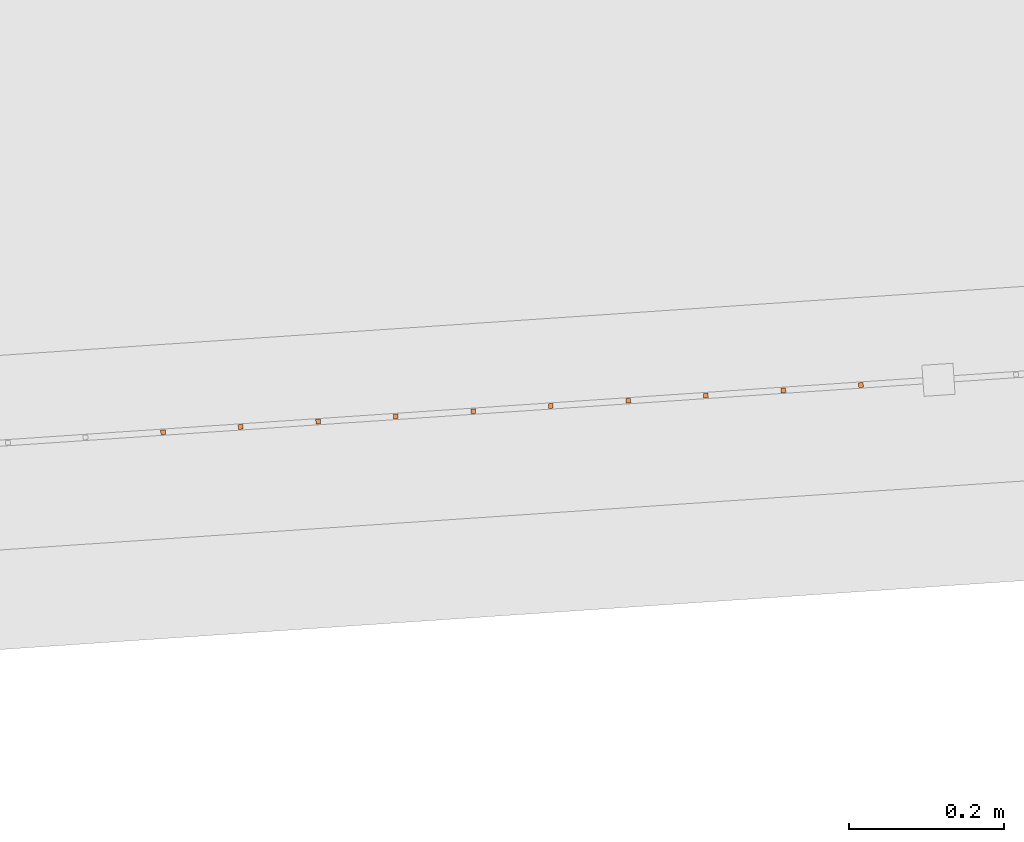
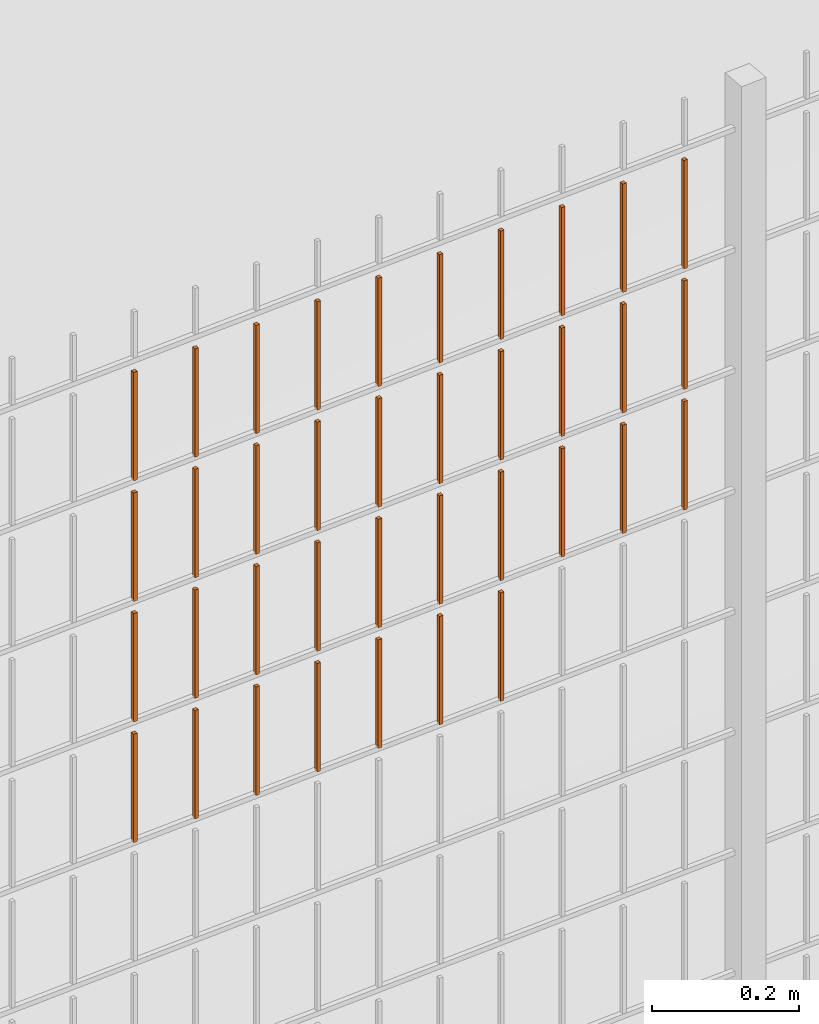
# One storey, part 166 of 1809: 37 proxies, 1 element without a shape of its own.
"""IFC2X3 building model written with IfcOpenShell, lengths in millimetres."""

from ifc_helpers import new_model, entity, si_unit, converted_unit, derived_unit, money_unit, direction, frame, origin_with_axes, place, context, subcontext, project, spatial, faceted_brep, source, transform, mapped, material, type_object, element, aggregate, save


model = new_model("IFC2X3")

# Units and contexts
model_context = context("Model", 3, precision=0.01, world=origin_with_axes(), true_north=direction((0.0, 1.0)))
body_context = subcontext(model_context, "Body", "Model", "MODEL_VIEW")
ifc_project = project(units=[si_unit("LENGTHUNIT", "METRE", prefix="MILLI"), si_unit("AREAUNIT", "SQUARE_METRE"), si_unit("VOLUMEUNIT", "CUBIC_METRE"), converted_unit("PLANEANGLEUNIT", "DEGREE", entity("IfcPlaneAngleMeasure", 0.0174532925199), si_unit("PLANEANGLEUNIT", "RADIAN"), dimensions=[0, 0, 0, 0, 0, 0, 0]), si_unit("SOLIDANGLEUNIT", "STERADIAN"), money_unit("EUR"), converted_unit("TIMEUNIT", "Year", entity("IfcTimeMeasure", 31556926.0), si_unit("TIMEUNIT", "SECOND"), dimensions=[0, 0, 1, 0, 0, 0, 0]), si_unit("MASSUNIT", "GRAM", prefix="KILO"), si_unit("THERMODYNAMICTEMPERATUREUNIT", "DEGREE_CELSIUS"), si_unit("LUMINOUSINTENSITYUNIT", "LUMEN"), si_unit("ENERGYUNIT", "JOULE", prefix="MEGA"), derived_unit("THERMALCONDUCTANCEUNIT", [(si_unit("POWERUNIT", "WATT"), 1), (si_unit("LENGTHUNIT", "METRE"), -1), (si_unit("THERMODYNAMICTEMPERATUREUNIT", "KELVIN"), -1)]), derived_unit("SPECIFICHEATCAPACITYUNIT", [(si_unit("ENERGYUNIT", "JOULE"), 1), (si_unit("MASSUNIT", "GRAM", prefix="KILO"), -1), (si_unit("THERMODYNAMICTEMPERATUREUNIT", "KELVIN"), -1)]), derived_unit("MASSDENSITYUNIT", [(si_unit("MASSUNIT", "GRAM", prefix="KILO"), 1), (si_unit("VOLUMEUNIT", "CUBIC_METRE"), -1)])], contexts=[model_context])

# Site, building, storey
site_placement = place(None, origin_with_axes())
site = spatial("IfcSite", under=ifc_project, at=site_placement, Name="Politse- ja Piirivalveameti ning Päästeameti ühishoone", CompositionType="ELEMENT")
building_placement = place(site_placement, origin_with_axes())
building = spatial("IfcBuilding", under=site, at=building_placement, Name="Politse- ja Piirivalveameti ning Päästeameti ühishoone", CompositionType="ELEMENT")
storey_placement = place(building_placement, origin_with_axes())
storey = spatial("IfcBuildingStorey", under=building, at=storey_placement, Name="Esimene korrus", CompositionType="ELEMENT", Elevation=0.0)

# Proxies
building_element_proxy_type_1 = type_object("IfcBuildingElementProxyType", Name="Railing Type", PredefinedType="NOTDEFINED")
proxy_1_placement = place(storey_placement, frame((89252.001212, -29183.4766571, 203.661247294), z_axis=(0.0, 0.0, 1.0), x_axis=(1.0, 0.0, 0.0)))
proxy_1 = element("IfcBuildingElementProxy", 1, at=proxy_1_placement, inside=storey, type_object=building_element_proxy_type_1, Name="PIIRDEAED")
ifc_material = material(Name="ET-03_Raud")
building_element_proxy_type_2 = type_object("IfcBuildingElementProxyType", Name="IfcBuildingElementProxy", PredefinedType="NOTDEFINED")
shared_shape_1 = source(origin_with_axes(), body_context, "Body", "Brep", [
    faceted_brep([(3.0, 3.0, -0.000752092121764), (-3.0, 3.0, -0.000752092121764), (-3.0, 3.0, 179.99926046), (3.0, 3.0, 179.99926046), (3.0, -3.0, 0.000752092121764), (-3.0, -3.0, 0.000752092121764), (-3.0, -3.0, 180.000764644), (3.0, -3.0, 180.000764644)], [[[0, 1, 2, 3]], [[0, 4, 5, 1]], [[1, 5, 6, 2]], [[3, 2, 6, 7]], [[4, 0, 3, 7]], [[5, 4, 7, 6]]]),
])
proxy_2_placement = place(proxy_1_placement, frame((-77949.0693064, -22562.9402241, 1207.64823), z_axis=(0.0, 0.0, 1.0), x_axis=(1.0, 0.0, 0.0)))
proxy_2 = element("IfcBuildingElementProxy", 2, at=proxy_2_placement, type_object=building_element_proxy_type_2, material=ifc_material, Name="BALUSTER - 001", context=body_context, shape_type="MappedRepresentation", body=[
    mapped(shared_shape_1, transform((0.0, 0.0, 0.0), x_axis=(-0.0673926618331, 0.997726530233, 0.0), y_axis=(-0.997726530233, -0.0673926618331, 0.0), z_axis=(0.0, 0.0, 1.0))),
])
shared_shape_2 = source(origin_with_axes(), body_context, "Body", "Brep", [
    faceted_brep([(3.0, 3.0, -0.000752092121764), (-3.0, 3.0, -0.000752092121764), (-3.0, 3.0, 179.99926046), (3.0, 3.0, 179.99926046), (3.0, -3.0, 0.000752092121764), (-3.0, -3.0, 0.000752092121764), (-3.0, -3.0, 180.000764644), (3.0, -3.0, 180.000764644)], [[[0, 1, 2, 3]], [[0, 4, 5, 1]], [[1, 5, 6, 2]], [[3, 2, 6, 7]], [[4, 0, 3, 7]], [[5, 4, 7, 6]]]),
])
proxy_3_placement = place(proxy_1_placement, frame((-77250.6607352, -22515.7653608, 1407.82371816), z_axis=(0.0, 0.0, 1.0), x_axis=(1.0, 0.0, 0.0)))
proxy_3 = element("IfcBuildingElementProxy", 3, at=proxy_3_placement, type_object=building_element_proxy_type_2, material=ifc_material, Name="BALUSTER - 001", context=body_context, shape_type="MappedRepresentation", body=[
    mapped(shared_shape_2, transform((0.0, 0.0, 0.0), x_axis=(-0.0673926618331, 0.997726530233, 0.0), y_axis=(-0.997726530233, -0.0673926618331, 0.0), z_axis=(0.0, 0.0, 1.0))),
])
proxy_4_placement = place(proxy_1_placement, frame((-77949.0693064, -22562.9402241, 1407.64823), z_axis=(0.0, 0.0, 1.0), x_axis=(1.0, 0.0, 0.0)))
proxy_4 = element("IfcBuildingElementProxy", 4, at=proxy_4_placement, type_object=building_element_proxy_type_2, material=ifc_material, Name="BALUSTER - 001", context=body_context, shape_type="MappedRepresentation", body=[
    mapped(shared_shape_2, transform((0.0, 0.0, 0.0), x_axis=(-0.0673926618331, 0.997726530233, 0.0), y_axis=(-0.997726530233, -0.0673926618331, 0.0), z_axis=(0.0, 0.0, 1.0))),
])
proxy_5_placement = place(proxy_1_placement, frame((-77250.6607352, -22515.7653608, 1607.82371816), z_axis=(0.0, 0.0, 1.0), x_axis=(1.0, 0.0, 0.0)))
proxy_5 = element("IfcBuildingElementProxy", 5, at=proxy_5_placement, type_object=building_element_proxy_type_2, material=ifc_material, Name="BALUSTER - 001", context=body_context, shape_type="MappedRepresentation", body=[
    mapped(shared_shape_2, transform((0.0, 0.0, 0.0), x_axis=(-0.0673926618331, 0.997726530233, 0.0), y_axis=(-0.997726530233, -0.0673926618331, 0.0), z_axis=(0.0, 0.0, 1.0))),
])
proxy_6_placement = place(proxy_1_placement, frame((-77949.0693064, -22562.9402241, 1607.64823), z_axis=(0.0, 0.0, 1.0), x_axis=(1.0, 0.0, 0.0)))
proxy_6 = element("IfcBuildingElementProxy", 6, at=proxy_6_placement, type_object=building_element_proxy_type_2, material=ifc_material, Name="BALUSTER - 001", context=body_context, shape_type="MappedRepresentation", body=[
    mapped(shared_shape_2, transform((0.0, 0.0, 0.0), x_axis=(-0.0673926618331, 0.997726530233, 0.0), y_axis=(-0.997726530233, -0.0673926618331, 0.0), z_axis=(0.0, 0.0, 1.0))),
])
shared_shape_3 = source(origin_with_axes(), body_context, "Body", "Brep", [
    faceted_brep([(3.0, 3.0, -0.000752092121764), (-3.0, 3.0, -0.000752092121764), (-3.0, 3.0, 179.99926046), (3.0, 3.0, 179.99926046), (3.0, -3.0, 0.000752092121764), (-3.0, -3.0, 0.000752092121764), (-3.0, -3.0, 180.000764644), (3.0, -3.0, 180.000764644)], [[[0, 1, 2, 3]], [[0, 4, 5, 1]], [[1, 5, 6, 2]], [[3, 2, 6, 7]], [[4, 0, 3, 7]], [[5, 4, 7, 6]]]),
])
proxy_7_placement = place(proxy_1_placement, frame((-77849.2966534, -22556.2009579, 1207.67329974), z_axis=(0.0, 0.0, 1.0), x_axis=(1.0, 0.0, 0.0)))
proxy_7 = element("IfcBuildingElementProxy", 7, at=proxy_7_placement, type_object=building_element_proxy_type_2, material=ifc_material, Name="BALUSTER - 001", context=body_context, shape_type="MappedRepresentation", body=[
    mapped(shared_shape_3, transform((0.0, 0.0, 0.0), x_axis=(-0.0673926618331, 0.997726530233, 0.0), y_axis=(-0.997726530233, -0.0673926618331, 0.0), z_axis=(0.0, 0.0, 1.0))),
])
proxy_8_placement = place(proxy_1_placement, frame((-77949.0693064, -22562.9402241, 1807.64823), z_axis=(0.0, 0.0, 1.0), x_axis=(1.0, 0.0, 0.0)))
proxy_8 = element("IfcBuildingElementProxy", 8, at=proxy_8_placement, type_object=building_element_proxy_type_2, material=ifc_material, Name="BALUSTER - 001", context=body_context, shape_type="MappedRepresentation", body=[
    mapped(shared_shape_3, transform((0.0, 0.0, 0.0), x_axis=(-0.0673926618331, 0.997726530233, 0.0), y_axis=(-0.997726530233, -0.0673926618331, 0.0), z_axis=(0.0, 0.0, 1.0))),
])
shared_shape_4 = source(origin_with_axes(), body_context, "Body", "Brep", [
    faceted_brep([(3.0, 3.0, -0.000752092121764), (-3.0, 3.0, -0.000752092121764), (-3.0, 3.0, 179.99926046), (3.0, 3.0, 179.99926046), (3.0, -3.0, 0.000752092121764), (-3.0, -3.0, 0.000752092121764), (-3.0, -3.0, 180.000764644), (3.0, -3.0, 180.000764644)], [[[0, 1, 2, 3]], [[0, 4, 5, 1]], [[1, 5, 6, 2]], [[3, 2, 6, 7]], [[4, 0, 3, 7]], [[5, 4, 7, 6]]]),
])
proxy_9_placement = place(proxy_1_placement, frame((-77250.6607352, -22515.7653608, 1807.82371816), z_axis=(0.0, 0.0, 1.0), x_axis=(1.0, 0.0, 0.0)))
proxy_9 = element("IfcBuildingElementProxy", 9, at=proxy_9_placement, type_object=building_element_proxy_type_2, material=ifc_material, Name="BALUSTER - 001", context=body_context, shape_type="MappedRepresentation", body=[
    mapped(shared_shape_4, transform((0.0, 0.0, 0.0), x_axis=(-0.0673926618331, 0.997726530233, 0.0), y_axis=(-0.997726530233, -0.0673926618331, 0.0), z_axis=(0.0, 0.0, 1.0))),
])
proxy_10_placement = place(proxy_1_placement, frame((-77849.2966534, -22556.2009579, 1807.67329974), z_axis=(0.0, 0.0, 1.0), x_axis=(1.0, 0.0, 0.0)))
proxy_10 = element("IfcBuildingElementProxy", 10, at=proxy_10_placement, type_object=building_element_proxy_type_2, material=ifc_material, Name="BALUSTER - 001", context=body_context, shape_type="MappedRepresentation", body=[
    mapped(shared_shape_4, transform((0.0, 0.0, 0.0), x_axis=(-0.0673926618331, 0.997726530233, 0.0), y_axis=(-0.997726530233, -0.0673926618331, 0.0), z_axis=(0.0, 0.0, 1.0))),
])
shared_shape_5 = source(origin_with_axes(), body_context, "Body", "Brep", [
    faceted_brep([(3.0, 3.0, -0.000752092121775), (-3.0, 3.0, -0.000752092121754), (-3.0, 3.0, 179.99926046), (3.0, 3.0, 179.99926046), (3.0, -3.0, 0.000752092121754), (-3.0, -3.0, 0.000752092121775), (-3.0, -3.0, 180.000764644), (3.0, -3.0, 180.000764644)], [[[0, 1, 2, 3]], [[0, 4, 5, 1]], [[1, 5, 6, 2]], [[3, 2, 6, 7]], [[4, 0, 3, 7]], [[5, 4, 7, 6]]]),
])
proxy_11_placement = place(proxy_1_placement, frame((-77749.5240003, -22549.4616917, 1807.69836948), z_axis=(0.0, 0.0, 1.0), x_axis=(1.0, 0.0, 0.0)))
proxy_11 = element("IfcBuildingElementProxy", 11, at=proxy_11_placement, type_object=building_element_proxy_type_2, material=ifc_material, Name="BALUSTER - 001", context=body_context, shape_type="MappedRepresentation", body=[
    mapped(shared_shape_5, transform((0.0, 0.0, 0.0), x_axis=(-0.0673926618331, 0.997726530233, 0.0), y_axis=(-0.997726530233, -0.0673926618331, 0.0), z_axis=(0.0, 0.0, 1.0))),
])
shared_shape_6 = source(origin_with_axes(), body_context, "Body", "Brep", [
    faceted_brep([(3.0, 3.0, -0.000752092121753), (-3.0, 3.0, -0.000752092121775), (-3.0, 3.0, 179.99926046), (3.0, 3.0, 179.99926046), (3.0, -3.0, 0.000752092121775), (-3.0, -3.0, 0.000752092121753), (-3.0, -3.0, 180.000764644), (3.0, -3.0, 180.000764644)], [[[0, 1, 2, 3]], [[0, 4, 5, 1]], [[1, 5, 6, 2]], [[3, 2, 6, 7]], [[4, 0, 3, 7]], [[5, 4, 7, 6]]]),
])
proxy_12_placement = place(proxy_1_placement, frame((-77549.9786943, -22535.9831593, 1207.74850895), z_axis=(0.0, 0.0, 1.0), x_axis=(1.0, 0.0, 0.0)))
proxy_12 = element("IfcBuildingElementProxy", 12, at=proxy_12_placement, type_object=building_element_proxy_type_2, material=ifc_material, Name="BALUSTER - 001", context=body_context, shape_type="MappedRepresentation", body=[
    mapped(shared_shape_6, transform((0.0, 0.0, 0.0), x_axis=(-0.0673926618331, 0.997726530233, 0.0), y_axis=(-0.997726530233, -0.0673926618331, 0.0), z_axis=(0.0, 0.0, 1.0))),
])
shared_shape_7 = source(origin_with_axes(), body_context, "Body", "Brep", [
    faceted_brep([(3.0, 3.0, -0.000752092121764), (-3.0, 3.0, -0.000752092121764), (-3.0, 3.0, 179.99926046), (3.0, 3.0, 179.99926046), (3.0, -3.0, 0.000752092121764), (-3.0, -3.0, 0.000752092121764), (-3.0, -3.0, 180.000764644), (3.0, -3.0, 180.000764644)], [[[0, 1, 2, 3]], [[0, 4, 5, 1]], [[1, 5, 6, 2]], [[3, 2, 6, 7]], [[4, 0, 3, 7]], [[5, 4, 7, 6]]]),
])
proxy_13_placement = place(proxy_1_placement, frame((-77649.7513473, -22542.7224255, 1807.72343922), z_axis=(0.0, 0.0, 1.0), x_axis=(1.0, 0.0, 0.0)))
proxy_13 = element("IfcBuildingElementProxy", 13, at=proxy_13_placement, type_object=building_element_proxy_type_2, material=ifc_material, Name="BALUSTER - 001", context=body_context, shape_type="MappedRepresentation", body=[
    mapped(shared_shape_7, transform((0.0, 0.0, 0.0), x_axis=(-0.0673926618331, 0.997726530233, 0.0), y_axis=(-0.997726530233, -0.0673926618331, 0.0), z_axis=(0.0, 0.0, 1.0))),
])
proxy_14_placement = place(proxy_1_placement, frame((-78148.6146124, -22576.4187564, 1807.59809053), z_axis=(0.0, 0.0, 1.0), x_axis=(1.0, 0.0, 0.0)))
proxy_14 = element("IfcBuildingElementProxy", 14, at=proxy_14_placement, type_object=building_element_proxy_type_2, material=ifc_material, Name="BALUSTER - 001", context=body_context, shape_type="MappedRepresentation", body=[
    mapped(shared_shape_7, transform((0.0, 0.0, 0.0), x_axis=(-0.0673926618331, 0.997726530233, 0.0), y_axis=(-0.997726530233, -0.0673926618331, 0.0), z_axis=(0.0, 0.0, 1.0))),
])
shared_shape_8 = source(origin_with_axes(), body_context, "Body", "Brep", [
    faceted_brep([(3.0, 3.0, -0.000752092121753), (-3.0, 3.0, -0.000752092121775), (-3.0, 3.0, 179.99926046), (3.0, 3.0, 179.99926046), (3.0, -3.0, 0.000752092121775), (-3.0, -3.0, 0.000752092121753), (-3.0, -3.0, 180.000764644), (3.0, -3.0, 180.000764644)], [[[0, 1, 2, 3]], [[0, 4, 5, 1]], [[1, 5, 6, 2]], [[3, 2, 6, 7]], [[4, 0, 3, 7]], [[5, 4, 7, 6]]]),
])
proxy_15_placement = place(proxy_1_placement, frame((-78048.8419594, -22569.6794903, 1807.62316027), z_axis=(0.0, 0.0, 1.0), x_axis=(1.0, 0.0, 0.0)))
proxy_15 = element("IfcBuildingElementProxy", 15, at=proxy_15_placement, type_object=building_element_proxy_type_2, material=ifc_material, Name="BALUSTER - 001", context=body_context, shape_type="MappedRepresentation", body=[
    mapped(shared_shape_8, transform((0.0, 0.0, 0.0), x_axis=(-0.0673926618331, 0.997726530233, 0.0), y_axis=(-0.997726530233, -0.0673926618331, 0.0), z_axis=(0.0, 0.0, 1.0))),
])
shared_shape_9 = source(origin_with_axes(), body_context, "Body", "Brep", [
    faceted_brep([(3.0, 3.0, -0.000752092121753), (-3.0, 3.0, -0.000752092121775), (-3.0, 3.0, 179.99926046), (3.0, 3.0, 179.99926046), (3.0, -3.0, 0.000752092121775), (-3.0, -3.0, 0.000752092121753), (-3.0, -3.0, 180.000764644), (3.0, -3.0, 180.000764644)], [[[0, 1, 2, 3]], [[0, 4, 5, 1]], [[1, 5, 6, 2]], [[3, 2, 6, 7]], [[4, 0, 3, 7]], [[5, 4, 7, 6]]]),
])
proxy_16_placement = place(proxy_1_placement, frame((-77350.4333882, -22522.504627, 1407.79864843), z_axis=(0.0, 0.0, 1.0), x_axis=(1.0, 0.0, 0.0)))
proxy_16 = element("IfcBuildingElementProxy", 16, at=proxy_16_placement, type_object=building_element_proxy_type_2, material=ifc_material, Name="BALUSTER - 001", context=body_context, shape_type="MappedRepresentation", body=[
    mapped(shared_shape_9, transform((0.0, 0.0, 0.0), x_axis=(-0.0673926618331, 0.997726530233, 0.0), y_axis=(-0.997726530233, -0.0673926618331, 0.0), z_axis=(0.0, 0.0, 1.0))),
])
proxy_17_placement = place(proxy_1_placement, frame((-77350.4333882, -22522.504627, 1607.79864843), z_axis=(0.0, 0.0, 1.0), x_axis=(1.0, 0.0, 0.0)))
proxy_17 = element("IfcBuildingElementProxy", 17, at=proxy_17_placement, type_object=building_element_proxy_type_2, material=ifc_material, Name="BALUSTER - 001", context=body_context, shape_type="MappedRepresentation", body=[
    mapped(shared_shape_9, transform((0.0, 0.0, 0.0), x_axis=(-0.0673926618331, 0.997726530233, 0.0), y_axis=(-0.997726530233, -0.0673926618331, 0.0), z_axis=(0.0, 0.0, 1.0))),
])
shared_shape_10 = source(origin_with_axes(), body_context, "Body", "Brep", [
    faceted_brep([(3.0, 3.0, -0.000752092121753), (-3.0, 3.0, -0.000752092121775), (-3.0, 3.0, 179.99926046), (3.0, 3.0, 179.99926046), (3.0, -3.0, 0.000752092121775), (-3.0, -3.0, 0.000752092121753), (-3.0, -3.0, 180.000764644), (3.0, -3.0, 180.000764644)], [[[0, 1, 2, 3]], [[0, 4, 5, 1]], [[1, 5, 6, 2]], [[3, 2, 6, 7]], [[4, 0, 3, 7]], [[5, 4, 7, 6]]]),
])
proxy_18_placement = place(proxy_1_placement, frame((-77549.9786943, -22535.9831593, 1407.74850895), z_axis=(0.0, 0.0, 1.0), x_axis=(1.0, 0.0, 0.0)))
proxy_18 = element("IfcBuildingElementProxy", 18, at=proxy_18_placement, type_object=building_element_proxy_type_2, material=ifc_material, Name="BALUSTER - 001", context=body_context, shape_type="MappedRepresentation", body=[
    mapped(shared_shape_10, transform((0.0, 0.0, 0.0), x_axis=(-0.0673926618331, 0.997726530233, 0.0), y_axis=(-0.997726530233, -0.0673926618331, 0.0), z_axis=(0.0, 0.0, 1.0))),
])
proxy_19_placement = place(proxy_1_placement, frame((-77549.9786943, -22535.9831593, 1607.74850895), z_axis=(0.0, 0.0, 1.0), x_axis=(1.0, 0.0, 0.0)))
proxy_19 = element("IfcBuildingElementProxy", 19, at=proxy_19_placement, type_object=building_element_proxy_type_2, material=ifc_material, Name="BALUSTER - 001", context=body_context, shape_type="MappedRepresentation", body=[
    mapped(shared_shape_10, transform((0.0, 0.0, 0.0), x_axis=(-0.0673926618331, 0.997726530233, 0.0), y_axis=(-0.997726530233, -0.0673926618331, 0.0), z_axis=(0.0, 0.0, 1.0))),
])
shared_shape_11 = source(origin_with_axes(), body_context, "Body", "Brep", [
    faceted_brep([(3.0, 3.0, -0.000752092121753), (-3.0, 3.0, -0.000752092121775), (-3.0, 3.0, 179.99926046), (3.0, 3.0, 179.99926046), (3.0, -3.0, 0.000752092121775), (-3.0, -3.0, 0.000752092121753), (-3.0, -3.0, 180.000764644), (3.0, -3.0, 180.000764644)], [[[0, 1, 2, 3]], [[0, 4, 5, 1]], [[1, 5, 6, 2]], [[3, 2, 6, 7]], [[4, 0, 3, 7]], [[5, 4, 7, 6]]]),
])
proxy_20_placement = place(proxy_1_placement, frame((-77350.4333882, -22522.504627, 1807.79864843), z_axis=(0.0, 0.0, 1.0), x_axis=(1.0, 0.0, 0.0)))
proxy_20 = element("IfcBuildingElementProxy", 20, at=proxy_20_placement, type_object=building_element_proxy_type_2, material=ifc_material, Name="BALUSTER - 001", context=body_context, shape_type="MappedRepresentation", body=[
    mapped(shared_shape_11, transform((0.0, 0.0, 0.0), x_axis=(-0.0673926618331, 0.997726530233, 0.0), y_axis=(-0.997726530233, -0.0673926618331, 0.0), z_axis=(0.0, 0.0, 1.0))),
])
shared_shape_12 = source(origin_with_axes(), body_context, "Body", "Brep", [
    faceted_brep([(3.0, 3.0, -0.000752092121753), (-3.0, 3.0, -0.000752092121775), (-3.0, 3.0, 179.99926046), (3.0, 3.0, 179.99926046), (3.0, -3.0, 0.000752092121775), (-3.0, -3.0, 0.000752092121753), (-3.0, -3.0, 180.000764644), (3.0, -3.0, 180.000764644)], [[[0, 1, 2, 3]], [[0, 4, 5, 1]], [[1, 5, 6, 2]], [[3, 2, 6, 7]], [[4, 0, 3, 7]], [[5, 4, 7, 6]]]),
])
proxy_21_placement = place(proxy_1_placement, frame((-78048.8419594, -22569.6794903, 1207.62316027), z_axis=(0.0, 0.0, 1.0), x_axis=(1.0, 0.0, 0.0)))
proxy_21 = element("IfcBuildingElementProxy", 21, at=proxy_21_placement, type_object=building_element_proxy_type_2, material=ifc_material, Name="BALUSTER - 001", context=body_context, shape_type="MappedRepresentation", body=[
    mapped(shared_shape_12, transform((0.0, 0.0, 0.0), x_axis=(-0.0673926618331, 0.997726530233, 0.0), y_axis=(-0.997726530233, -0.0673926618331, 0.0), z_axis=(0.0, 0.0, 1.0))),
])
proxy_22_placement = place(proxy_1_placement, frame((-77549.9786943, -22535.9831593, 1807.74850895), z_axis=(0.0, 0.0, 1.0), x_axis=(1.0, 0.0, 0.0)))
proxy_22 = element("IfcBuildingElementProxy", 22, at=proxy_22_placement, type_object=building_element_proxy_type_2, material=ifc_material, Name="BALUSTER - 001", context=body_context, shape_type="MappedRepresentation", body=[
    mapped(shared_shape_12, transform((0.0, 0.0, 0.0), x_axis=(-0.0673926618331, 0.997726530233, 0.0), y_axis=(-0.997726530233, -0.0673926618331, 0.0), z_axis=(0.0, 0.0, 1.0))),
])
shared_shape_13 = source(origin_with_axes(), body_context, "Body", "Brep", [
    faceted_brep([(3.0, 3.0, -0.000752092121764), (-3.0, 3.0, -0.000752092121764), (-3.0, 3.0, 179.99926046), (3.0, 3.0, 179.99926046), (3.0, -3.0, 0.000752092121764), (-3.0, -3.0, 0.000752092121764), (-3.0, -3.0, 180.000764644), (3.0, -3.0, 180.000764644)], [[[0, 1, 2, 3]], [[0, 4, 5, 1]], [[1, 5, 6, 2]], [[3, 2, 6, 7]], [[4, 0, 3, 7]], [[5, 4, 7, 6]]]),
])
proxy_23_placement = place(proxy_1_placement, frame((-78148.6146124, -22576.4187564, 1207.59809053), z_axis=(0.0, 0.0, 1.0), x_axis=(1.0, 0.0, 0.0)))
proxy_23 = element("IfcBuildingElementProxy", 23, at=proxy_23_placement, type_object=building_element_proxy_type_2, material=ifc_material, Name="BALUSTER - 001", context=body_context, shape_type="MappedRepresentation", body=[
    mapped(shared_shape_13, transform((0.0, 0.0, 0.0), x_axis=(-0.0673926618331, 0.997726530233, 0.0), y_axis=(-0.997726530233, -0.0673926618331, 0.0), z_axis=(0.0, 0.0, 1.0))),
])
shared_shape_14 = source(origin_with_axes(), body_context, "Body", "Brep", [
    faceted_brep([(3.0, 3.0, -0.000752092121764), (-3.0, 3.0, -0.000752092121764), (-3.0, 3.0, 179.99926046), (3.0, 3.0, 179.99926046), (3.0, -3.0, 0.000752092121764), (-3.0, -3.0, 0.000752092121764), (-3.0, -3.0, 180.000764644), (3.0, -3.0, 180.000764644)], [[[0, 1, 2, 3]], [[0, 4, 5, 1]], [[1, 5, 6, 2]], [[3, 2, 6, 7]], [[4, 0, 3, 7]], [[5, 4, 7, 6]]]),
])
proxy_24_placement = place(proxy_1_placement, frame((-77649.7513473, -22542.7224255, 1207.72343922), z_axis=(0.0, 0.0, 1.0), x_axis=(1.0, 0.0, 0.0)))
proxy_24 = element("IfcBuildingElementProxy", 24, at=proxy_24_placement, type_object=building_element_proxy_type_2, material=ifc_material, Name="BALUSTER - 001", context=body_context, shape_type="MappedRepresentation", body=[
    mapped(shared_shape_14, transform((0.0, 0.0, 0.0), x_axis=(-0.0673926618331, 0.997726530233, 0.0), y_axis=(-0.997726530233, -0.0673926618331, 0.0), z_axis=(0.0, 0.0, 1.0))),
])
shared_shape_15 = source(origin_with_axes(), body_context, "Body", "Brep", [
    faceted_brep([(3.0, 3.0, -0.000752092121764), (-3.0, 3.0, -0.000752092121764), (-3.0, 3.0, 179.99926046), (3.0, 3.0, 179.99926046), (3.0, -3.0, 0.000752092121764), (-3.0, -3.0, 0.000752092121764), (-3.0, -3.0, 180.000764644), (3.0, -3.0, 180.000764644)], [[[0, 1, 2, 3]], [[0, 4, 5, 1]], [[1, 5, 6, 2]], [[3, 2, 6, 7]], [[4, 0, 3, 7]], [[5, 4, 7, 6]]]),
])
proxy_25_placement = place(proxy_1_placement, frame((-77649.7513473, -22542.7224255, 1407.72343922), z_axis=(0.0, 0.0, 1.0), x_axis=(1.0, 0.0, 0.0)))
proxy_25 = element("IfcBuildingElementProxy", 25, at=proxy_25_placement, type_object=building_element_proxy_type_2, material=ifc_material, Name="BALUSTER - 001", context=body_context, shape_type="MappedRepresentation", body=[
    mapped(shared_shape_15, transform((0.0, 0.0, 0.0), x_axis=(-0.0673926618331, 0.997726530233, 0.0), y_axis=(-0.997726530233, -0.0673926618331, 0.0), z_axis=(0.0, 0.0, 1.0))),
])
proxy_26_placement = place(proxy_1_placement, frame((-77649.7513473, -22542.7224255, 1607.72343922), z_axis=(0.0, 0.0, 1.0), x_axis=(1.0, 0.0, 0.0)))
proxy_26 = element("IfcBuildingElementProxy", 26, at=proxy_26_placement, type_object=building_element_proxy_type_2, material=ifc_material, Name="BALUSTER - 001", context=body_context, shape_type="MappedRepresentation", body=[
    mapped(shared_shape_15, transform((0.0, 0.0, 0.0), x_axis=(-0.0673926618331, 0.997726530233, 0.0), y_axis=(-0.997726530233, -0.0673926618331, 0.0), z_axis=(0.0, 0.0, 1.0))),
])
shared_shape_16 = source(origin_with_axes(), body_context, "Body", "Brep", [
    faceted_brep([(3.0, 3.0, -0.000752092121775), (-3.0, 3.0, -0.000752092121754), (-3.0, 3.0, 179.99926046), (3.0, 3.0, 179.99926046), (3.0, -3.0, 0.000752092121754), (-3.0, -3.0, 0.000752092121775), (-3.0, -3.0, 180.000764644), (3.0, -3.0, 180.000764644)], [[[0, 1, 2, 3]], [[0, 4, 5, 1]], [[1, 5, 6, 2]], [[3, 2, 6, 7]], [[4, 0, 3, 7]], [[5, 4, 7, 6]]]),
])
proxy_27_placement = place(proxy_1_placement, frame((-77749.5240003, -22549.4616917, 1207.69836948), z_axis=(0.0, 0.0, 1.0), x_axis=(1.0, 0.0, 0.0)))
proxy_27 = element("IfcBuildingElementProxy", 27, at=proxy_27_placement, type_object=building_element_proxy_type_2, material=ifc_material, Name="BALUSTER - 001", context=body_context, shape_type="MappedRepresentation", body=[
    mapped(shared_shape_16, transform((0.0, 0.0, 0.0), x_axis=(-0.0673926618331, 0.997726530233, 0.0), y_axis=(-0.997726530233, -0.0673926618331, 0.0), z_axis=(0.0, 0.0, 1.0))),
])
shared_shape_17 = source(origin_with_axes(), body_context, "Body", "Brep", [
    faceted_brep([(3.0, 3.0, -0.000752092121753), (-3.0, 3.0, -0.000752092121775), (-3.0, 3.0, 179.99926046), (3.0, 3.0, 179.99926046), (3.0, -3.0, 0.000752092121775), (-3.0, -3.0, 0.000752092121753), (-3.0, -3.0, 180.000764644), (3.0, -3.0, 180.000764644)], [[[0, 1, 2, 3]], [[0, 4, 5, 1]], [[1, 5, 6, 2]], [[3, 2, 6, 7]], [[4, 0, 3, 7]], [[5, 4, 7, 6]]]),
])
proxy_28_placement = place(proxy_1_placement, frame((-78048.8419594, -22569.6794903, 1407.62316027), z_axis=(0.0, 0.0, 1.0), x_axis=(1.0, 0.0, 0.0)))
proxy_28 = element("IfcBuildingElementProxy", 28, at=proxy_28_placement, type_object=building_element_proxy_type_2, material=ifc_material, Name="BALUSTER - 001", context=body_context, shape_type="MappedRepresentation", body=[
    mapped(shared_shape_17, transform((0.0, 0.0, 0.0), x_axis=(-0.0673926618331, 0.997726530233, 0.0), y_axis=(-0.997726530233, -0.0673926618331, 0.0), z_axis=(0.0, 0.0, 1.0))),
])
proxy_29_placement = place(proxy_1_placement, frame((-78048.8419594, -22569.6794903, 1607.62316027), z_axis=(0.0, 0.0, 1.0), x_axis=(1.0, 0.0, 0.0)))
proxy_29 = element("IfcBuildingElementProxy", 29, at=proxy_29_placement, type_object=building_element_proxy_type_2, material=ifc_material, Name="BALUSTER - 001", context=body_context, shape_type="MappedRepresentation", body=[
    mapped(shared_shape_17, transform((0.0, 0.0, 0.0), x_axis=(-0.0673926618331, 0.997726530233, 0.0), y_axis=(-0.997726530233, -0.0673926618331, 0.0), z_axis=(0.0, 0.0, 1.0))),
])
shared_shape_18 = source(origin_with_axes(), body_context, "Body", "Brep", [
    faceted_brep([(3.0, 3.0, -0.000752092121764), (-3.0, 3.0, -0.000752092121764), (-3.0, 3.0, 179.99926046), (3.0, 3.0, 179.99926046), (3.0, -3.0, 0.000752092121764), (-3.0, -3.0, 0.000752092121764), (-3.0, -3.0, 180.000764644), (3.0, -3.0, 180.000764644)], [[[0, 1, 2, 3]], [[0, 4, 5, 1]], [[1, 5, 6, 2]], [[3, 2, 6, 7]], [[4, 0, 3, 7]], [[5, 4, 7, 6]]]),
])
proxy_30_placement = place(proxy_1_placement, frame((-77849.2966534, -22556.2009579, 1407.67329974), z_axis=(0.0, 0.0, 1.0), x_axis=(1.0, 0.0, 0.0)))
proxy_30 = element("IfcBuildingElementProxy", 30, at=proxy_30_placement, type_object=building_element_proxy_type_2, material=ifc_material, Name="BALUSTER - 001", context=body_context, shape_type="MappedRepresentation", body=[
    mapped(shared_shape_18, transform((0.0, 0.0, 0.0), x_axis=(-0.0673926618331, 0.997726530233, 0.0), y_axis=(-0.997726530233, -0.0673926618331, 0.0), z_axis=(0.0, 0.0, 1.0))),
])
proxy_31_placement = place(proxy_1_placement, frame((-77849.2966534, -22556.2009579, 1607.67329974), z_axis=(0.0, 0.0, 1.0), x_axis=(1.0, 0.0, 0.0)))
proxy_31 = element("IfcBuildingElementProxy", 31, at=proxy_31_placement, type_object=building_element_proxy_type_2, material=ifc_material, Name="BALUSTER - 001", context=body_context, shape_type="MappedRepresentation", body=[
    mapped(shared_shape_18, transform((0.0, 0.0, 0.0), x_axis=(-0.0673926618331, 0.997726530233, 0.0), y_axis=(-0.997726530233, -0.0673926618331, 0.0), z_axis=(0.0, 0.0, 1.0))),
])
shared_shape_19 = source(origin_with_axes(), body_context, "Body", "Brep", [
    faceted_brep([(3.0, 3.0, -0.000752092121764), (-3.0, 3.0, -0.000752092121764), (-3.0, 3.0, 179.99926046), (3.0, 3.0, 179.99926046), (3.0, -3.0, 0.000752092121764), (-3.0, -3.0, 0.000752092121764), (-3.0, -3.0, 180.000764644), (3.0, -3.0, 180.000764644)], [[[0, 1, 2, 3]], [[0, 4, 5, 1]], [[1, 5, 6, 2]], [[3, 2, 6, 7]], [[4, 0, 3, 7]], [[5, 4, 7, 6]]]),
])
proxy_32_placement = place(proxy_1_placement, frame((-78148.6146124, -22576.4187564, 1407.59809053), z_axis=(0.0, 0.0, 1.0), x_axis=(1.0, 0.0, 0.0)))
proxy_32 = element("IfcBuildingElementProxy", 32, at=proxy_32_placement, type_object=building_element_proxy_type_2, material=ifc_material, Name="BALUSTER - 001", context=body_context, shape_type="MappedRepresentation", body=[
    mapped(shared_shape_19, transform((0.0, 0.0, 0.0), x_axis=(-0.0673926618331, 0.997726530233, 0.0), y_axis=(-0.997726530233, -0.0673926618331, 0.0), z_axis=(0.0, 0.0, 1.0))),
])
proxy_33_placement = place(proxy_1_placement, frame((-78148.6146124, -22576.4187564, 1607.59809053), z_axis=(0.0, 0.0, 1.0), x_axis=(1.0, 0.0, 0.0)))
proxy_33 = element("IfcBuildingElementProxy", 33, at=proxy_33_placement, type_object=building_element_proxy_type_2, material=ifc_material, Name="BALUSTER - 001", context=body_context, shape_type="MappedRepresentation", body=[
    mapped(shared_shape_19, transform((0.0, 0.0, 0.0), x_axis=(-0.0673926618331, 0.997726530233, 0.0), y_axis=(-0.997726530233, -0.0673926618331, 0.0), z_axis=(0.0, 0.0, 1.0))),
])
shared_shape_20 = source(origin_with_axes(), body_context, "Body", "Brep", [
    faceted_brep([(3.0, 3.0, -0.000752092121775), (-3.0, 3.0, -0.000752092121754), (-3.0, 3.0, 179.99926046), (3.0, 3.0, 179.99926046), (3.0, -3.0, 0.000752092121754), (-3.0, -3.0, 0.000752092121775), (-3.0, -3.0, 180.000764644), (3.0, -3.0, 180.000764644)], [[[0, 1, 2, 3]], [[0, 4, 5, 1]], [[1, 5, 6, 2]], [[3, 2, 6, 7]], [[4, 0, 3, 7]], [[5, 4, 7, 6]]]),
])
proxy_34_placement = place(proxy_1_placement, frame((-77749.5240003, -22549.4616917, 1407.69836948), z_axis=(0.0, 0.0, 1.0), x_axis=(1.0, 0.0, 0.0)))
proxy_34 = element("IfcBuildingElementProxy", 34, at=proxy_34_placement, type_object=building_element_proxy_type_2, material=ifc_material, Name="BALUSTER - 001", context=body_context, shape_type="MappedRepresentation", body=[
    mapped(shared_shape_20, transform((0.0, 0.0, 0.0), x_axis=(-0.0673926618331, 0.997726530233, 0.0), y_axis=(-0.997726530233, -0.0673926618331, 0.0), z_axis=(0.0, 0.0, 1.0))),
])
proxy_35_placement = place(proxy_1_placement, frame((-77749.5240003, -22549.4616917, 1607.69836948), z_axis=(0.0, 0.0, 1.0), x_axis=(1.0, 0.0, 0.0)))
proxy_35 = element("IfcBuildingElementProxy", 35, at=proxy_35_placement, type_object=building_element_proxy_type_2, material=ifc_material, Name="BALUSTER - 001", context=body_context, shape_type="MappedRepresentation", body=[
    mapped(shared_shape_20, transform((0.0, 0.0, 0.0), x_axis=(-0.0673926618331, 0.997726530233, 0.0), y_axis=(-0.997726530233, -0.0673926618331, 0.0), z_axis=(0.0, 0.0, 1.0))),
])
shared_shape_21 = source(origin_with_axes(), body_context, "Body", "Brep", [
    faceted_brep([(3.0, 3.0, -0.000752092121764), (-3.0, 3.0, -0.000752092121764), (-3.0, 3.0, 179.99926046), (3.0, 3.0, 179.99926046), (3.0, -3.0, 0.000752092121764), (-3.0, -3.0, 0.000752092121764), (-3.0, -3.0, 180.000764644), (3.0, -3.0, 180.000764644)], [[[0, 1, 2, 3]], [[0, 4, 5, 1]], [[1, 5, 6, 2]], [[3, 2, 6, 7]], [[4, 0, 3, 7]], [[5, 4, 7, 6]]]),
])
proxy_36_placement = place(proxy_1_placement, frame((-77450.2060413, -22529.2438932, 1807.77357869), z_axis=(0.0, 0.0, 1.0), x_axis=(1.0, 0.0, 0.0)))
proxy_36 = element("IfcBuildingElementProxy", 36, at=proxy_36_placement, type_object=building_element_proxy_type_2, material=ifc_material, Name="BALUSTER - 001", context=body_context, shape_type="MappedRepresentation", body=[
    mapped(shared_shape_21, transform((0.0, 0.0, 0.0), x_axis=(-0.0673926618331, 0.997726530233, 0.0), y_axis=(-0.997726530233, -0.0673926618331, 0.0), z_axis=(0.0, 0.0, 1.0))),
])
shared_shape_22 = source(origin_with_axes(), body_context, "Body", "Brep", [
    faceted_brep([(3.0, 3.0, -0.000752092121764), (-3.0, 3.0, -0.000752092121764), (-3.0, 3.0, 179.99926046), (3.0, 3.0, 179.99926046), (3.0, -3.0, 0.000752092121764), (-3.0, -3.0, 0.000752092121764), (-3.0, -3.0, 180.000764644), (3.0, -3.0, 180.000764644)], [[[0, 1, 2, 3]], [[0, 4, 5, 1]], [[1, 5, 6, 2]], [[3, 2, 6, 7]], [[4, 0, 3, 7]], [[5, 4, 7, 6]]]),
])
proxy_37_placement = place(proxy_1_placement, frame((-77450.2060413, -22529.2438932, 1407.77357869), z_axis=(0.0, 0.0, 1.0), x_axis=(1.0, 0.0, 0.0)))
proxy_37 = element("IfcBuildingElementProxy", 37, at=proxy_37_placement, type_object=building_element_proxy_type_2, material=ifc_material, Name="BALUSTER - 001", context=body_context, shape_type="MappedRepresentation", body=[
    mapped(shared_shape_22, transform((0.0, 0.0, 0.0), x_axis=(-0.0673926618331, 0.997726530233, 0.0), y_axis=(-0.997726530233, -0.0673926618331, 0.0), z_axis=(0.0, 0.0, 1.0))),
])
proxy_38_placement = place(proxy_1_placement, frame((-77450.2060413, -22529.2438932, 1607.77357869), z_axis=(0.0, 0.0, 1.0), x_axis=(1.0, 0.0, 0.0)))
proxy_38 = element("IfcBuildingElementProxy", 38, at=proxy_38_placement, type_object=building_element_proxy_type_2, material=ifc_material, Name="BALUSTER - 001", context=body_context, shape_type="MappedRepresentation", body=[
    mapped(shared_shape_22, transform((0.0, 0.0, 0.0), x_axis=(-0.0673926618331, 0.997726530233, 0.0), y_axis=(-0.997726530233, -0.0673926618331, 0.0), z_axis=(0.0, 0.0, 1.0))),
])
aggregate(proxy_1, [proxy_12, proxy_24, proxy_27, proxy_7, proxy_2, proxy_21, proxy_23, proxy_3, proxy_16, proxy_37, proxy_18, proxy_25, proxy_34, proxy_30, proxy_4, proxy_28, proxy_32, proxy_5, proxy_17, proxy_38, proxy_19, proxy_26, proxy_35, proxy_31, proxy_6, proxy_29, proxy_33, proxy_9, proxy_20, proxy_36, proxy_22, proxy_13, proxy_11, proxy_10, proxy_8, proxy_15, proxy_14])

save(model, "model.ifc")
